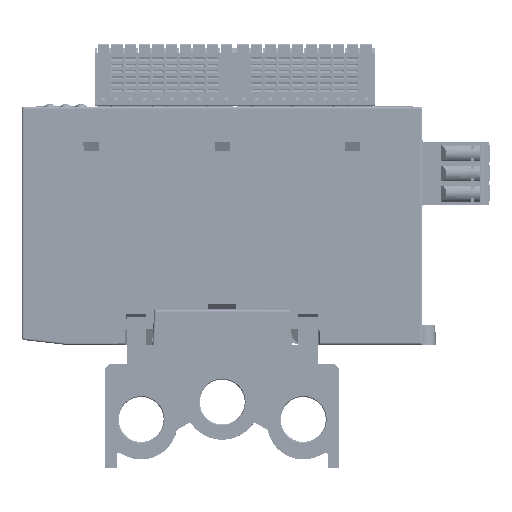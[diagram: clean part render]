
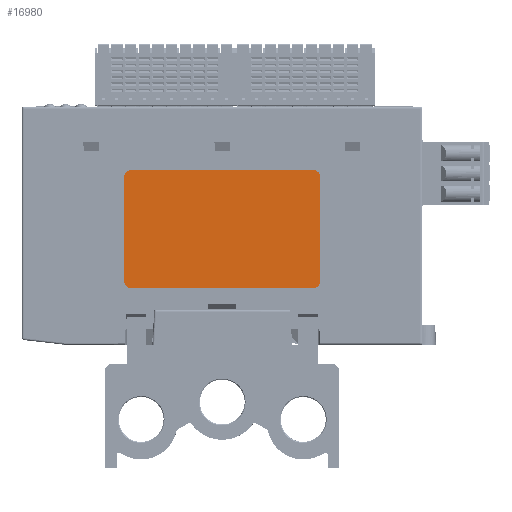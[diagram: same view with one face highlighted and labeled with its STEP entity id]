
A CAD part, front view. The second image highlights one B-rep face of the part: STEP entity #16980.
In plain terms, the highlighted planar face has unit normal (0, -1, 0).
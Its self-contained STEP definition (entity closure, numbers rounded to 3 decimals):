
#7501=FACE_OUTER_BOUND('',#71992,.T.);
#16980=ADVANCED_FACE('',(#7501),#26679,.F.);
#26679=PLANE('',#182485);
#34417=LINE('',#253931,#52595);
#34421=LINE('',#253939,#52599);
#34423=LINE('',#253943,#52601);
#34426=LINE('',#253951,#52604);
#52595=VECTOR('',#200234,1.);
#52599=VECTOR('',#200240,1.);
#52601=VECTOR('',#200244,1.);
#52604=VECTOR('',#200251,1.);
#71992=EDGE_LOOP('',(#85683,#85684,#85685,#85686,#85687,#85688,#85689,#85690));
#85683=ORIENTED_EDGE('',*,*,#153252,.F.);
#85684=ORIENTED_EDGE('',*,*,#153257,.T.);
#85685=ORIENTED_EDGE('',*,*,#153258,.F.);
#85686=ORIENTED_EDGE('',*,*,#153259,.T.);
#85687=ORIENTED_EDGE('',*,*,#153254,.F.);
#85688=ORIENTED_EDGE('',*,*,#153260,.T.);
#85689=ORIENTED_EDGE('',*,*,#153248,.F.);
#85690=ORIENTED_EDGE('',*,*,#153261,.T.);
#135845=VERTEX_POINT('',#253932);
#135846=VERTEX_POINT('',#253933);
#135847=VERTEX_POINT('',#253938);
#135848=VERTEX_POINT('',#253940);
#135849=VERTEX_POINT('',#253944);
#135850=VERTEX_POINT('',#253945);
#135851=VERTEX_POINT('',#253950);
#135852=VERTEX_POINT('',#253952);
#153248=EDGE_CURVE('',#135845,#135846,#34417,.T.);
#153252=EDGE_CURVE('',#135847,#135848,#34421,.T.);
#153254=EDGE_CURVE('',#135849,#135850,#34423,.T.);
#153257=EDGE_CURVE('',#135847,#135851,#177107,.T.);
#153258=EDGE_CURVE('',#135852,#135851,#34426,.T.);
#153259=EDGE_CURVE('',#135852,#135850,#177108,.T.);
#153260=EDGE_CURVE('',#135849,#135846,#177109,.T.);
#153261=EDGE_CURVE('',#135845,#135848,#177110,.T.);
#177107=CIRCLE('',#182481,1.8);
#177108=CIRCLE('',#182482,1.8);
#177109=CIRCLE('',#182483,1.8);
#177110=CIRCLE('',#182484,1.8);
#182481=AXIS2_PLACEMENT_3D('',#253949,#200249,#200250);
#182482=AXIS2_PLACEMENT_3D('',#253953,#200252,#200253);
#182483=AXIS2_PLACEMENT_3D('',#253954,#200254,#200255);
#182484=AXIS2_PLACEMENT_3D('',#253955,#200256,#200257);
#182485=AXIS2_PLACEMENT_3D('',#253956,#200258,#200259);
#200234=DIRECTION('',(0.,0.,-1.));
#200240=DIRECTION('',(1.,0.,0.));
#200244=DIRECTION('',(-1.,0.,0.));
#200249=DIRECTION('',(0.,-1.,0.));
#200250=DIRECTION('',(0.,0.,1.));
#200251=DIRECTION('',(0.,0.,1.));
#200252=DIRECTION('',(0.,-1.,0.));
#200253=DIRECTION('',(0.,0.,-1.));
#200254=DIRECTION('',(0.,-1.,0.));
#200255=DIRECTION('',(0.,0.,-1.));
#200256=DIRECTION('',(0.,-1.,0.));
#200257=DIRECTION('',(0.,0.,-1.));
#200258=DIRECTION('',(0.,1.,0.));
#200259=DIRECTION('',(0.,0.,-1.));
#253931=CARTESIAN_POINT('',(525.15,-102.64,34.634));
#253932=CARTESIAN_POINT('',(525.15,-102.64,47.934));
#253933=CARTESIAN_POINT('',(525.15,-102.64,21.334));
#253938=CARTESIAN_POINT('',(476.75,-102.64,49.734));
#253939=CARTESIAN_POINT('',(500.05,-102.64,49.734));
#253940=CARTESIAN_POINT('',(523.35,-102.64,49.734));
#253943=CARTESIAN_POINT('',(475.05,-102.64,19.534));
#253944=CARTESIAN_POINT('',(523.35,-102.64,19.534));
#253945=CARTESIAN_POINT('',(476.75,-102.64,19.534));
#253949=CARTESIAN_POINT('',(476.75,-102.64,47.934));
#253950=CARTESIAN_POINT('',(474.95,-102.64,47.934));
#253951=CARTESIAN_POINT('',(474.95,-102.64,34.634));
#253952=CARTESIAN_POINT('',(474.95,-102.64,21.334));
#253953=CARTESIAN_POINT('',(476.75,-102.64,21.334));
#253954=CARTESIAN_POINT('',(523.35,-102.64,21.334));
#253955=CARTESIAN_POINT('',(523.35,-102.64,47.934));
#253956=CARTESIAN_POINT('',(500.041,-102.64,23.341));
